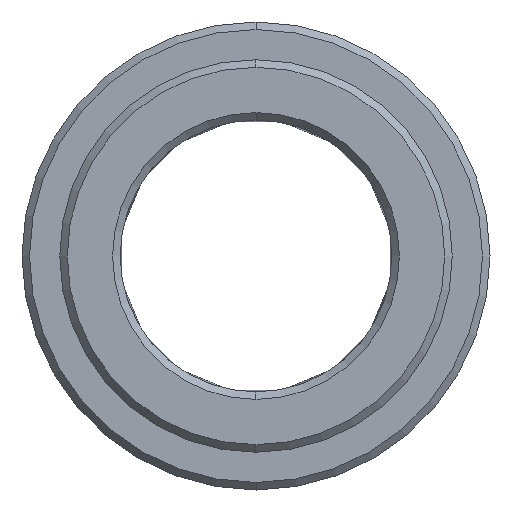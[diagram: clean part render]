
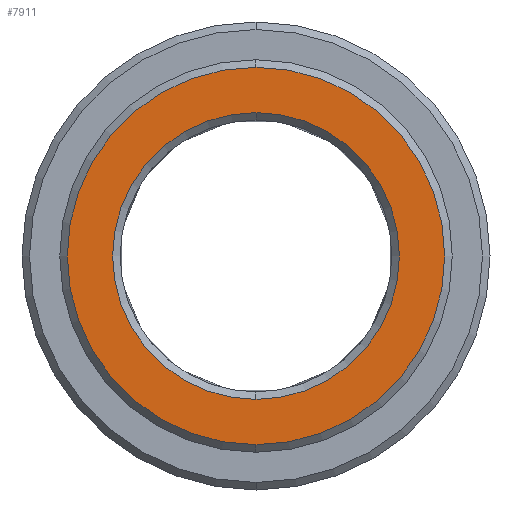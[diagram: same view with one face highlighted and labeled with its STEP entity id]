
A CAD part, left-side view. The second image highlights one B-rep face of the part: STEP entity #7911.
In plain terms, the highlighted planar face has unit normal (-1, 0, 0).
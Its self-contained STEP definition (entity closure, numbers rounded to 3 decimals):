
#5090=CARTESIAN_POINT('',(-8.,0.,
0.));
#5091=DIRECTION('',(1.,0.,0.));
#5092=DIRECTION('',(0.,0.,1.));
#5093=AXIS2_PLACEMENT_3D('',#5090,#5091,#5092);
#5095=CARTESIAN_POINT('',(-8.,0.,0.));
#5096=DIRECTION('',(1.,0.,0.));
#5097=DIRECTION('',(0.,0.,-1.));
#5098=AXIS2_PLACEMENT_3D('',#5095,#5096,#5097);
#5100=CARTESIAN_POINT('',(-8.,0.,0.));
#5101=DIRECTION('',(1.,0.,0.));
#5102=DIRECTION('',(0.,0.,-1.));
#5103=AXIS2_PLACEMENT_3D('',#5100,#5101,#5102);
#5105=CARTESIAN_POINT('',(-8.,0.,0.));
#5106=DIRECTION('',(1.,0.,0.));
#5107=DIRECTION('',(0.,0.,1.));
#5108=AXIS2_PLACEMENT_3D('',#5105,#5106,#5107);
#5462=CARTESIAN_POINT('',(-8.,0.,-9.5));
#5463=CARTESIAN_POINT('',(-8.,0.,9.5));
#5464=VERTEX_POINT('',#5462);
#5465=VERTEX_POINT('',#5463);
#5470=CARTESIAN_POINT('',(-8.,0.,12.5));
#5471=CARTESIAN_POINT('',(-8.,0.,-12.5));
#5472=VERTEX_POINT('',#5470);
#5473=VERTEX_POINT('',#5471);
#7896=CARTESIAN_POINT('',(-8.,0.,0.));
#7897=DIRECTION('',(1.,0.,0.));
#7898=DIRECTION('',(0.,0.,1.));
#7899=AXIS2_PLACEMENT_3D('',#7896,#7897,#7898);
#7900=PLANE('',#7899);
#7901=ORIENTED_EDGE('',*,*,#7863,.T.);
#7902=ORIENTED_EDGE('',*,*,#7878,.T.);
#7903=EDGE_LOOP('',(#7901,#7902));
#7904=FACE_OUTER_BOUND('',#7903,.F.);
#7906=ORIENTED_EDGE('',*,*,#7905,.F.);
#7908=ORIENTED_EDGE('',*,*,#7907,.F.);
#7909=EDGE_LOOP('',(#7906,#7908));
#7910=FACE_BOUND('',#7909,.F.);
#7911=ADVANCED_FACE('',(#7904,#7910),#7900,.F.);
#5094=CIRCLE('',#5093,12.5);
#5099=CIRCLE('',#5098,12.5);
#5104=CIRCLE('',#5103,9.5);
#5109=CIRCLE('',#5108,9.5);
#7863=EDGE_CURVE('',#5472,#5473,#5094,.T.);
#7878=EDGE_CURVE('',#5473,#5472,#5099,.T.);
#7905=EDGE_CURVE('',#5464,#5465,#5104,.T.);
#7907=EDGE_CURVE('',#5465,#5464,#5109,.T.);
